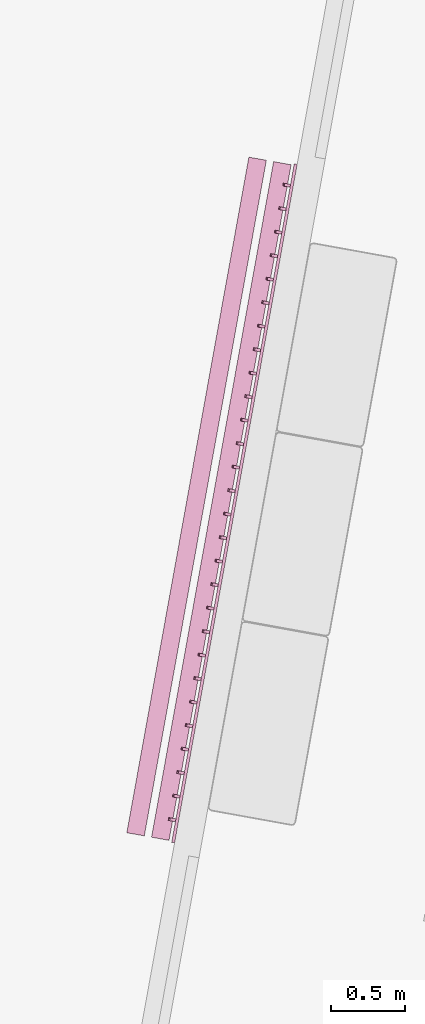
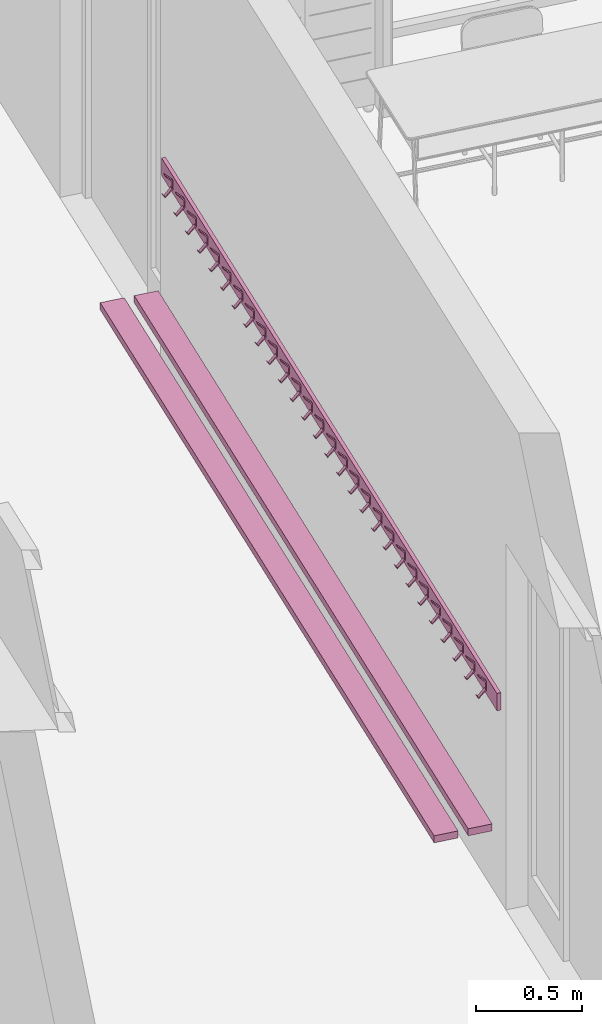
# One storey, part 10 of 79: 2 furnishings.
"""IFC2X3 building model written with IfcOpenShell, lengths in metres."""

from ifc_helpers import new_model, entity, si_unit, converted_unit, derived_unit, money_unit, direction, frame, origin_with_axes, place, context, subcontext, project, spatial, faceted_brep, source, transform, mapped, material, type_object, element, save


model = new_model("IFC2X3")

# Units and contexts
model_context = context("Model", 3, precision=1e-05, world=origin_with_axes(), true_north=direction((0.0, 1.0)))
body_context = subcontext(model_context, "Body", "Model", "MODEL_VIEW")
ifc_project = project(units=[si_unit("LENGTHUNIT", "METRE"), si_unit("AREAUNIT", "SQUARE_METRE"), si_unit("VOLUMEUNIT", "CUBIC_METRE"), converted_unit("PLANEANGLEUNIT", "DEGREE", entity("IfcPlaneAngleMeasure", 0.0174532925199), si_unit("PLANEANGLEUNIT", "RADIAN"), dimensions=[0, 0, 0, 0, 0, 0, 0]), money_unit("CHF"), converted_unit("TIMEUNIT", "Year", entity("IfcTimeMeasure", 31556926.0), si_unit("TIMEUNIT", "SECOND"), dimensions=[0, 0, 1, 0, 0, 0, 0]), si_unit("MASSUNIT", "GRAM", prefix="KILO"), si_unit("THERMODYNAMICTEMPERATUREUNIT", "DEGREE_CELSIUS"), si_unit("LUMINOUSINTENSITYUNIT", "LUMEN"), si_unit("ENERGYUNIT", "JOULE", prefix="MEGA"), derived_unit("THERMALCONDUCTANCEUNIT", [(si_unit("POWERUNIT", "WATT"), 1), (si_unit("LENGTHUNIT", "METRE"), -1), (si_unit("THERMODYNAMICTEMPERATUREUNIT", "KELVIN"), -1)]), derived_unit("SPECIFICHEATCAPACITYUNIT", [(si_unit("ENERGYUNIT", "JOULE"), 1), (si_unit("MASSUNIT", "GRAM", prefix="KILO"), -1), (si_unit("THERMODYNAMICTEMPERATUREUNIT", "KELVIN"), -1)]), derived_unit("MASSDENSITYUNIT", [(si_unit("MASSUNIT", "GRAM", prefix="KILO"), 1), (si_unit("VOLUMEUNIT", "CUBIC_METRE"), -1)])], contexts=[model_context])

# Site, building, storey
site_placement = place(None, frame((0.0, 0.0, 0.0), z_axis=(0.0, 0.0, 1.0), x_axis=(-0.177771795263, -0.984071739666, 0.0)))
site = spatial("IfcSite", under=ifc_project, at=site_placement, Name="Site", CompositionType="ELEMENT")
building_placement = place(site_placement, origin_with_axes())
building = spatial("IfcBuilding", under=site, at=building_placement, Name="Bâtiment", CompositionType="ELEMENT")
storey_placement = place(building_placement, origin_with_axes())
storey = spatial("IfcBuildingStorey", under=building, at=storey_placement, Name="RDC", CompositionType="ELEMENT", Elevation=0.0)

# Furnishings
ifc_material_1 = material(Name="Matériau de construction IFC")
furnishing_element_type_1 = type_object("IfcFurnishingElementType", Name="Râtelier mural 21")
shared_shape_1 = source(origin_with_axes(), body_context, "Body", "Brep", [
    faceted_brep([(-2.33000000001, 0.0, 0.0), (2.33000000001, 0.0, 0.0), (2.33000000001, -0.02, 0.0), (-2.33000000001, -0.02, 0.0), (-2.33000000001, 0.0, 0.1), (2.33000000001, 0.0, 0.1), (2.33000000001, -0.02, 0.1), (-2.33000000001, -0.02, 0.1)], [[[0, 1, 2, 3]], [[1, 0, 4, 5]], [[2, 1, 5, 6]], [[3, 2, 6, 7]], [[0, 3, 7, 4]], [[5, 4, 7, 6]]]),
    faceted_brep([(2.16862068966, -0.06, -0.015), (2.16862068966, -0.02, 0.025), (2.18862068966, -0.02, 0.025), (2.18862068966, -0.06, -0.015), (2.16862068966, -0.07, 0.0), (2.16862068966, -0.0675, 0.0), (2.16862068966, -0.06, -0.01), (2.16862068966, -0.025, 0.03), (2.16862068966, -0.025, 0.07), (2.16862068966, -0.06, 0.11), (2.16862068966, -0.06, 0.115), (2.16862068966, -0.02, 0.075), (2.18862068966, -0.02, 0.075), (2.18862068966, -0.06, 0.115), (2.18862068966, -0.06, 0.11), (2.18862068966, -0.025, 0.07), (2.18862068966, -0.025, 0.03), (2.18862068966, -0.06, -0.01), (2.18862068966, -0.0675, 0.0), (2.18862068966, -0.07, 0.0)], [[[0, 1, 2, 3]], [[0, 4, 5, 6, 7, 8, 9, 10, 11, 1]], [[1, 11, 12, 2]], [[3, 2, 12, 13, 14, 15, 16, 17, 18, 19]], [[4, 0, 3, 19]], [[5, 4, 19, 18]], [[6, 5, 18, 17]], [[7, 6, 17, 16]], [[8, 7, 16, 15]], [[9, 8, 15, 14]], [[10, 9, 14, 13]], [[11, 10, 13, 12]]]),
    faceted_brep([(2.00724137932, -0.06, -0.015), (2.00724137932, -0.02, 0.025), (2.02724137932, -0.02, 0.025), (2.02724137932, -0.06, -0.015), (2.00724137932, -0.07, 0.0), (2.00724137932, -0.0675, 0.0), (2.00724137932, -0.06, -0.01), (2.00724137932, -0.025, 0.03), (2.00724137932, -0.025, 0.07), (2.00724137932, -0.06, 0.11), (2.00724137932, -0.06, 0.115), (2.00724137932, -0.02, 0.075), (2.02724137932, -0.02, 0.075), (2.02724137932, -0.06, 0.115), (2.02724137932, -0.06, 0.11), (2.02724137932, -0.025, 0.07), (2.02724137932, -0.025, 0.03), (2.02724137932, -0.06, -0.01), (2.02724137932, -0.0675, 0.0), (2.02724137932, -0.07, 0.0)], [[[0, 1, 2, 3]], [[0, 4, 5, 6, 7, 8, 9, 10, 11, 1]], [[1, 11, 12, 2]], [[3, 2, 12, 13, 14, 15, 16, 17, 18, 19]], [[4, 0, 3, 19]], [[5, 4, 19, 18]], [[6, 5, 18, 17]], [[7, 6, 17, 16]], [[8, 7, 16, 15]], [[9, 8, 15, 14]], [[10, 9, 14, 13]], [[11, 10, 13, 12]]]),
    faceted_brep([(1.84586206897, -0.06, -0.015), (1.84586206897, -0.02, 0.025), (1.86586206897, -0.02, 0.025), (1.86586206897, -0.06, -0.015), (1.84586206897, -0.07, 0.0), (1.84586206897, -0.0675, 0.0), (1.84586206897, -0.06, -0.01), (1.84586206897, -0.025, 0.03), (1.84586206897, -0.025, 0.07), (1.84586206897, -0.06, 0.11), (1.84586206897, -0.06, 0.115), (1.84586206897, -0.02, 0.075), (1.86586206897, -0.02, 0.075), (1.86586206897, -0.06, 0.115), (1.86586206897, -0.06, 0.11), (1.86586206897, -0.025, 0.07), (1.86586206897, -0.025, 0.03), (1.86586206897, -0.06, -0.01), (1.86586206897, -0.0675, 0.0), (1.86586206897, -0.07, 0.0)], [[[0, 1, 2, 3]], [[0, 4, 5, 6, 7, 8, 9, 10, 11, 1]], [[1, 11, 12, 2]], [[3, 2, 12, 13, 14, 15, 16, 17, 18, 19]], [[4, 0, 3, 19]], [[5, 4, 19, 18]], [[6, 5, 18, 17]], [[7, 6, 17, 16]], [[8, 7, 16, 15]], [[9, 8, 15, 14]], [[10, 9, 14, 13]], [[11, 10, 13, 12]]]),
    faceted_brep([(1.68448275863, -0.06, -0.015), (1.68448275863, -0.02, 0.025), (1.70448275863, -0.02, 0.025), (1.70448275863, -0.06, -0.015), (1.68448275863, -0.07, 0.0), (1.68448275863, -0.0675, 0.0), (1.68448275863, -0.06, -0.01), (1.68448275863, -0.025, 0.03), (1.68448275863, -0.025, 0.07), (1.68448275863, -0.06, 0.11), (1.68448275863, -0.06, 0.115), (1.68448275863, -0.02, 0.075), (1.70448275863, -0.02, 0.075), (1.70448275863, -0.06, 0.115), (1.70448275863, -0.06, 0.11), (1.70448275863, -0.025, 0.07), (1.70448275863, -0.025, 0.03), (1.70448275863, -0.06, -0.01), (1.70448275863, -0.0675, 0.0), (1.70448275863, -0.07, 0.0)], [[[0, 1, 2, 3]], [[0, 4, 5, 6, 7, 8, 9, 10, 11, 1]], [[1, 11, 12, 2]], [[3, 2, 12, 13, 14, 15, 16, 17, 18, 19]], [[4, 0, 3, 19]], [[5, 4, 19, 18]], [[6, 5, 18, 17]], [[7, 6, 17, 16]], [[8, 7, 16, 15]], [[9, 8, 15, 14]], [[10, 9, 14, 13]], [[11, 10, 13, 12]]]),
    faceted_brep([(1.52310344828, -0.06, -0.015), (1.52310344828, -0.02, 0.025), (1.54310344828, -0.02, 0.025), (1.54310344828, -0.06, -0.015), (1.52310344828, -0.07, 0.0), (1.52310344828, -0.0675, 0.0), (1.52310344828, -0.06, -0.01), (1.52310344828, -0.025, 0.03), (1.52310344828, -0.025, 0.07), (1.52310344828, -0.06, 0.11), (1.52310344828, -0.06, 0.115), (1.52310344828, -0.02, 0.075), (1.54310344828, -0.02, 0.075), (1.54310344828, -0.06, 0.115), (1.54310344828, -0.06, 0.11), (1.54310344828, -0.025, 0.07), (1.54310344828, -0.025, 0.03), (1.54310344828, -0.06, -0.01), (1.54310344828, -0.0675, 0.0), (1.54310344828, -0.07, 0.0)], [[[0, 1, 2, 3]], [[0, 4, 5, 6, 7, 8, 9, 10, 11, 1]], [[1, 11, 12, 2]], [[3, 2, 12, 13, 14, 15, 16, 17, 18, 19]], [[4, 0, 3, 19]], [[5, 4, 19, 18]], [[6, 5, 18, 17]], [[7, 6, 17, 16]], [[8, 7, 16, 15]], [[9, 8, 15, 14]], [[10, 9, 14, 13]], [[11, 10, 13, 12]]]),
    faceted_brep([(1.36172413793, -0.06, -0.015), (1.36172413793, -0.02, 0.025), (1.38172413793, -0.02, 0.025), (1.38172413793, -0.06, -0.015), (1.36172413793, -0.07, 0.0), (1.36172413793, -0.0675, 0.0), (1.36172413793, -0.06, -0.01), (1.36172413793, -0.025, 0.03), (1.36172413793, -0.025, 0.07), (1.36172413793, -0.06, 0.11), (1.36172413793, -0.06, 0.115), (1.36172413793, -0.02, 0.075), (1.38172413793, -0.02, 0.075), (1.38172413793, -0.06, 0.115), (1.38172413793, -0.06, 0.11), (1.38172413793, -0.025, 0.07), (1.38172413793, -0.025, 0.03), (1.38172413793, -0.06, -0.01), (1.38172413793, -0.0675, 0.0), (1.38172413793, -0.07, 0.0)], [[[0, 1, 2, 3]], [[0, 4, 5, 6, 7, 8, 9, 10, 11, 1]], [[1, 11, 12, 2]], [[3, 2, 12, 13, 14, 15, 16, 17, 18, 19]], [[4, 0, 3, 19]], [[5, 4, 19, 18]], [[6, 5, 18, 17]], [[7, 6, 17, 16]], [[8, 7, 16, 15]], [[9, 8, 15, 14]], [[10, 9, 14, 13]], [[11, 10, 13, 12]]]),
    faceted_brep([(1.20034482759, -0.06, -0.015), (1.20034482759, -0.02, 0.025), (1.22034482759, -0.02, 0.025), (1.22034482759, -0.06, -0.015), (1.20034482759, -0.07, 0.0), (1.20034482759, -0.0675, 0.0), (1.20034482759, -0.06, -0.01), (1.20034482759, -0.025, 0.03), (1.20034482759, -0.025, 0.07), (1.20034482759, -0.06, 0.11), (1.20034482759, -0.06, 0.115), (1.20034482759, -0.02, 0.075), (1.22034482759, -0.02, 0.075), (1.22034482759, -0.06, 0.115), (1.22034482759, -0.06, 0.11), (1.22034482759, -0.025, 0.07), (1.22034482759, -0.025, 0.03), (1.22034482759, -0.06, -0.01), (1.22034482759, -0.0675, 0.0), (1.22034482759, -0.07, 0.0)], [[[0, 1, 2, 3]], [[0, 4, 5, 6, 7, 8, 9, 10, 11, 1]], [[1, 11, 12, 2]], [[3, 2, 12, 13, 14, 15, 16, 17, 18, 19]], [[4, 0, 3, 19]], [[5, 4, 19, 18]], [[6, 5, 18, 17]], [[7, 6, 17, 16]], [[8, 7, 16, 15]], [[9, 8, 15, 14]], [[10, 9, 14, 13]], [[11, 10, 13, 12]]]),
    faceted_brep([(1.03896551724, -0.06, -0.015), (1.03896551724, -0.02, 0.025), (1.05896551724, -0.02, 0.025), (1.05896551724, -0.06, -0.015), (1.03896551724, -0.07, 0.0), (1.03896551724, -0.0675, 0.0), (1.03896551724, -0.06, -0.01), (1.03896551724, -0.025, 0.03), (1.03896551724, -0.025, 0.07), (1.03896551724, -0.06, 0.11), (1.03896551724, -0.06, 0.115), (1.03896551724, -0.02, 0.075), (1.05896551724, -0.02, 0.075), (1.05896551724, -0.06, 0.115), (1.05896551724, -0.06, 0.11), (1.05896551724, -0.025, 0.07), (1.05896551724, -0.025, 0.03), (1.05896551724, -0.06, -0.01), (1.05896551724, -0.0675, 0.0), (1.05896551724, -0.07, 0.0)], [[[0, 1, 2, 3]], [[0, 4, 5, 6, 7, 8, 9, 10, 11, 1]], [[1, 11, 12, 2]], [[3, 2, 12, 13, 14, 15, 16, 17, 18, 19]], [[4, 0, 3, 19]], [[5, 4, 19, 18]], [[6, 5, 18, 17]], [[7, 6, 17, 16]], [[8, 7, 16, 15]], [[9, 8, 15, 14]], [[10, 9, 14, 13]], [[11, 10, 13, 12]]]),
    faceted_brep([(0.877586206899, -0.06, -0.015), (0.877586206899, -0.02, 0.025), (0.897586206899, -0.02, 0.025), (0.897586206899, -0.06, -0.015), (0.877586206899, -0.07, 0.0), (0.877586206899, -0.0675, 0.0), (0.877586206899, -0.06, -0.01), (0.877586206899, -0.025, 0.03), (0.877586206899, -0.025, 0.07), (0.877586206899, -0.06, 0.11), (0.877586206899, -0.06, 0.115), (0.877586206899, -0.02, 0.075), (0.897586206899, -0.02, 0.075), (0.897586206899, -0.06, 0.115), (0.897586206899, -0.06, 0.11), (0.897586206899, -0.025, 0.07), (0.897586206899, -0.025, 0.03), (0.897586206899, -0.06, -0.01), (0.897586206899, -0.0675, 0.0), (0.897586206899, -0.07, 0.0)], [[[0, 1, 2, 3]], [[0, 4, 5, 6, 7, 8, 9, 10, 11, 1]], [[1, 11, 12, 2]], [[3, 2, 12, 13, 14, 15, 16, 17, 18, 19]], [[4, 0, 3, 19]], [[5, 4, 19, 18]], [[6, 5, 18, 17]], [[7, 6, 17, 16]], [[8, 7, 16, 15]], [[9, 8, 15, 14]], [[10, 9, 14, 13]], [[11, 10, 13, 12]]]),
    faceted_brep([(0.716206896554, -0.06, -0.015), (0.716206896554, -0.02, 0.025), (0.736206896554, -0.02, 0.025), (0.736206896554, -0.06, -0.015), (0.716206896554, -0.07, 0.0), (0.716206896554, -0.0675, 0.0), (0.716206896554, -0.06, -0.01), (0.716206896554, -0.025, 0.03), (0.716206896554, -0.025, 0.07), (0.716206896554, -0.06, 0.11), (0.716206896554, -0.06, 0.115), (0.716206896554, -0.02, 0.075), (0.736206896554, -0.02, 0.075), (0.736206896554, -0.06, 0.115), (0.736206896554, -0.06, 0.11), (0.736206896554, -0.025, 0.07), (0.736206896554, -0.025, 0.03), (0.736206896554, -0.06, -0.01), (0.736206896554, -0.0675, 0.0), (0.736206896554, -0.07, 0.0)], [[[0, 1, 2, 3]], [[0, 4, 5, 6, 7, 8, 9, 10, 11, 1]], [[1, 11, 12, 2]], [[3, 2, 12, 13, 14, 15, 16, 17, 18, 19]], [[4, 0, 3, 19]], [[5, 4, 19, 18]], [[6, 5, 18, 17]], [[7, 6, 17, 16]], [[8, 7, 16, 15]], [[9, 8, 15, 14]], [[10, 9, 14, 13]], [[11, 10, 13, 12]]]),
    faceted_brep([(0.554827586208, -0.06, -0.015), (0.554827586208, -0.02, 0.025), (0.574827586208, -0.02, 0.025), (0.574827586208, -0.06, -0.015), (0.554827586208, -0.07, 0.0), (0.554827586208, -0.0675, 0.0), (0.554827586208, -0.06, -0.01), (0.554827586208, -0.025, 0.03), (0.554827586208, -0.025, 0.07), (0.554827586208, -0.06, 0.11), (0.554827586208, -0.06, 0.115), (0.554827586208, -0.02, 0.075), (0.574827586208, -0.02, 0.075), (0.574827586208, -0.06, 0.115), (0.574827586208, -0.06, 0.11), (0.574827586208, -0.025, 0.07), (0.574827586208, -0.025, 0.03), (0.574827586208, -0.06, -0.01), (0.574827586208, -0.0675, 0.0), (0.574827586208, -0.07, 0.0)], [[[0, 1, 2, 3]], [[0, 4, 5, 6, 7, 8, 9, 10, 11, 1]], [[1, 11, 12, 2]], [[3, 2, 12, 13, 14, 15, 16, 17, 18, 19]], [[4, 0, 3, 19]], [[5, 4, 19, 18]], [[6, 5, 18, 17]], [[7, 6, 17, 16]], [[8, 7, 16, 15]], [[9, 8, 15, 14]], [[10, 9, 14, 13]], [[11, 10, 13, 12]]]),
    faceted_brep([(0.393448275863, -0.06, -0.015), (0.393448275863, -0.02, 0.025), (0.413448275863, -0.02, 0.025), (0.413448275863, -0.06, -0.015), (0.393448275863, -0.07, 0.0), (0.393448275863, -0.0675, 0.0), (0.393448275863, -0.06, -0.01), (0.393448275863, -0.025, 0.03), (0.393448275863, -0.025, 0.07), (0.393448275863, -0.06, 0.11), (0.393448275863, -0.06, 0.115), (0.393448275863, -0.02, 0.075), (0.413448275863, -0.02, 0.075), (0.413448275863, -0.06, 0.115), (0.413448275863, -0.06, 0.11), (0.413448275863, -0.025, 0.07), (0.413448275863, -0.025, 0.03), (0.413448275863, -0.06, -0.01), (0.413448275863, -0.0675, 0.0), (0.413448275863, -0.07, 0.0)], [[[0, 1, 2, 3]], [[0, 4, 5, 6, 7, 8, 9, 10, 11, 1]], [[1, 11, 12, 2]], [[3, 2, 12, 13, 14, 15, 16, 17, 18, 19]], [[4, 0, 3, 19]], [[5, 4, 19, 18]], [[6, 5, 18, 17]], [[7, 6, 17, 16]], [[8, 7, 16, 15]], [[9, 8, 15, 14]], [[10, 9, 14, 13]], [[11, 10, 13, 12]]]),
    faceted_brep([(0.232068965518, -0.06, -0.015), (0.232068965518, -0.02, 0.025), (0.252068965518, -0.02, 0.025), (0.252068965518, -0.06, -0.015), (0.232068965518, -0.07, 0.0), (0.232068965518, -0.0675, 0.0), (0.232068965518, -0.06, -0.01), (0.232068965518, -0.025, 0.03), (0.232068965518, -0.025, 0.07), (0.232068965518, -0.06, 0.11), (0.232068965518, -0.06, 0.115), (0.232068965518, -0.02, 0.075), (0.252068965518, -0.02, 0.075), (0.252068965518, -0.06, 0.115), (0.252068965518, -0.06, 0.11), (0.252068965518, -0.025, 0.07), (0.252068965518, -0.025, 0.03), (0.252068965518, -0.06, -0.01), (0.252068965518, -0.0675, 0.0), (0.252068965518, -0.07, 0.0)], [[[0, 1, 2, 3]], [[0, 4, 5, 6, 7, 8, 9, 10, 11, 1]], [[1, 11, 12, 2]], [[3, 2, 12, 13, 14, 15, 16, 17, 18, 19]], [[4, 0, 3, 19]], [[5, 4, 19, 18]], [[6, 5, 18, 17]], [[7, 6, 17, 16]], [[8, 7, 16, 15]], [[9, 8, 15, 14]], [[10, 9, 14, 13]], [[11, 10, 13, 12]]]),
    faceted_brep([(0.0706896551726, -0.06, -0.015), (0.0706896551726, -0.02, 0.025), (0.0906896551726, -0.02, 0.025), (0.0906896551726, -0.06, -0.015), (0.0706896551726, -0.07, 0.0), (0.0706896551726, -0.0675, 0.0), (0.0706896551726, -0.06, -0.01), (0.0706896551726, -0.025, 0.03), (0.0706896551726, -0.025, 0.07), (0.0706896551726, -0.06, 0.11), (0.0706896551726, -0.06, 0.115), (0.0706896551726, -0.02, 0.075), (0.0906896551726, -0.02, 0.075), (0.0906896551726, -0.06, 0.115), (0.0906896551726, -0.06, 0.11), (0.0906896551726, -0.025, 0.07), (0.0906896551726, -0.025, 0.03), (0.0906896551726, -0.06, -0.01), (0.0906896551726, -0.0675, 0.0), (0.0906896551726, -0.07, 0.0)], [[[0, 1, 2, 3]], [[0, 4, 5, 6, 7, 8, 9, 10, 11, 1]], [[1, 11, 12, 2]], [[3, 2, 12, 13, 14, 15, 16, 17, 18, 19]], [[4, 0, 3, 19]], [[5, 4, 19, 18]], [[6, 5, 18, 17]], [[7, 6, 17, 16]], [[8, 7, 16, 15]], [[9, 8, 15, 14]], [[10, 9, 14, 13]], [[11, 10, 13, 12]]]),
    faceted_brep([(-0.0906896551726, -0.06, -0.015), (-0.0906896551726, -0.02, 0.025), (-0.0706896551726, -0.02, 0.025), (-0.0706896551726, -0.06, -0.015), (-0.0906896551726, -0.07, 0.0), (-0.0906896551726, -0.0675, 0.0), (-0.0906896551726, -0.06, -0.01), (-0.0906896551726, -0.025, 0.03), (-0.0906896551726, -0.025, 0.07), (-0.0906896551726, -0.06, 0.11), (-0.0906896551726, -0.06, 0.115), (-0.0906896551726, -0.02, 0.075), (-0.0706896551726, -0.02, 0.075), (-0.0706896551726, -0.06, 0.115), (-0.0706896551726, -0.06, 0.11), (-0.0706896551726, -0.025, 0.07), (-0.0706896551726, -0.025, 0.03), (-0.0706896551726, -0.06, -0.01), (-0.0706896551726, -0.0675, 0.0), (-0.0706896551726, -0.07, 0.0)], [[[0, 1, 2, 3]], [[0, 4, 5, 6, 7, 8, 9, 10, 11, 1]], [[1, 11, 12, 2]], [[3, 2, 12, 13, 14, 15, 16, 17, 18, 19]], [[4, 0, 3, 19]], [[5, 4, 19, 18]], [[6, 5, 18, 17]], [[7, 6, 17, 16]], [[8, 7, 16, 15]], [[9, 8, 15, 14]], [[10, 9, 14, 13]], [[11, 10, 13, 12]]]),
    faceted_brep([(-0.252068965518, -0.06, -0.015), (-0.252068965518, -0.02, 0.025), (-0.232068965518, -0.02, 0.025), (-0.232068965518, -0.06, -0.015), (-0.252068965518, -0.07, 0.0), (-0.252068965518, -0.0675, 0.0), (-0.252068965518, -0.06, -0.01), (-0.252068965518, -0.025, 0.03), (-0.252068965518, -0.025, 0.07), (-0.252068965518, -0.06, 0.11), (-0.252068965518, -0.06, 0.115), (-0.252068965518, -0.02, 0.075), (-0.232068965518, -0.02, 0.075), (-0.232068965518, -0.06, 0.115), (-0.232068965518, -0.06, 0.11), (-0.232068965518, -0.025, 0.07), (-0.232068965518, -0.025, 0.03), (-0.232068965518, -0.06, -0.01), (-0.232068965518, -0.0675, 0.0), (-0.232068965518, -0.07, 0.0)], [[[0, 1, 2, 3]], [[0, 4, 5, 6, 7, 8, 9, 10, 11, 1]], [[1, 11, 12, 2]], [[3, 2, 12, 13, 14, 15, 16, 17, 18, 19]], [[4, 0, 3, 19]], [[5, 4, 19, 18]], [[6, 5, 18, 17]], [[7, 6, 17, 16]], [[8, 7, 16, 15]], [[9, 8, 15, 14]], [[10, 9, 14, 13]], [[11, 10, 13, 12]]]),
    faceted_brep([(-0.413448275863, -0.06, -0.015), (-0.413448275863, -0.02, 0.025), (-0.393448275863, -0.02, 0.025), (-0.393448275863, -0.06, -0.015), (-0.413448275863, -0.07, 0.0), (-0.413448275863, -0.0675, 0.0), (-0.413448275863, -0.06, -0.01), (-0.413448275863, -0.025, 0.03), (-0.413448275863, -0.025, 0.07), (-0.413448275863, -0.06, 0.11), (-0.413448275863, -0.06, 0.115), (-0.413448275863, -0.02, 0.075), (-0.393448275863, -0.02, 0.075), (-0.393448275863, -0.06, 0.115), (-0.393448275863, -0.06, 0.11), (-0.393448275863, -0.025, 0.07), (-0.393448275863, -0.025, 0.03), (-0.393448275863, -0.06, -0.01), (-0.393448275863, -0.0675, 0.0), (-0.393448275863, -0.07, 0.0)], [[[0, 1, 2, 3]], [[0, 4, 5, 6, 7, 8, 9, 10, 11, 1]], [[1, 11, 12, 2]], [[3, 2, 12, 13, 14, 15, 16, 17, 18, 19]], [[4, 0, 3, 19]], [[5, 4, 19, 18]], [[6, 5, 18, 17]], [[7, 6, 17, 16]], [[8, 7, 16, 15]], [[9, 8, 15, 14]], [[10, 9, 14, 13]], [[11, 10, 13, 12]]]),
    faceted_brep([(-0.574827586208, -0.06, -0.015), (-0.574827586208, -0.02, 0.025), (-0.554827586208, -0.02, 0.025), (-0.554827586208, -0.06, -0.015), (-0.574827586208, -0.07, 0.0), (-0.574827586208, -0.0675, 0.0), (-0.574827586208, -0.06, -0.01), (-0.574827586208, -0.025, 0.03), (-0.574827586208, -0.025, 0.07), (-0.574827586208, -0.06, 0.11), (-0.574827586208, -0.06, 0.115), (-0.574827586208, -0.02, 0.075), (-0.554827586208, -0.02, 0.075), (-0.554827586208, -0.06, 0.115), (-0.554827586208, -0.06, 0.11), (-0.554827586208, -0.025, 0.07), (-0.554827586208, -0.025, 0.03), (-0.554827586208, -0.06, -0.01), (-0.554827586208, -0.0675, 0.0), (-0.554827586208, -0.07, 0.0)], [[[0, 1, 2, 3]], [[0, 4, 5, 6, 7, 8, 9, 10, 11, 1]], [[1, 11, 12, 2]], [[3, 2, 12, 13, 14, 15, 16, 17, 18, 19]], [[4, 0, 3, 19]], [[5, 4, 19, 18]], [[6, 5, 18, 17]], [[7, 6, 17, 16]], [[8, 7, 16, 15]], [[9, 8, 15, 14]], [[10, 9, 14, 13]], [[11, 10, 13, 12]]]),
    faceted_brep([(-0.736206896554, -0.06, -0.015), (-0.736206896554, -0.02, 0.025), (-0.716206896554, -0.02, 0.025), (-0.716206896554, -0.06, -0.015), (-0.736206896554, -0.07, 0.0), (-0.736206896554, -0.0675, 0.0), (-0.736206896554, -0.06, -0.01), (-0.736206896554, -0.025, 0.03), (-0.736206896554, -0.025, 0.07), (-0.736206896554, -0.06, 0.11), (-0.736206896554, -0.06, 0.115), (-0.736206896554, -0.02, 0.075), (-0.716206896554, -0.02, 0.075), (-0.716206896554, -0.06, 0.115), (-0.716206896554, -0.06, 0.11), (-0.716206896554, -0.025, 0.07), (-0.716206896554, -0.025, 0.03), (-0.716206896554, -0.06, -0.01), (-0.716206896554, -0.0675, 0.0), (-0.716206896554, -0.07, 0.0)], [[[0, 1, 2, 3]], [[0, 4, 5, 6, 7, 8, 9, 10, 11, 1]], [[1, 11, 12, 2]], [[3, 2, 12, 13, 14, 15, 16, 17, 18, 19]], [[4, 0, 3, 19]], [[5, 4, 19, 18]], [[6, 5, 18, 17]], [[7, 6, 17, 16]], [[8, 7, 16, 15]], [[9, 8, 15, 14]], [[10, 9, 14, 13]], [[11, 10, 13, 12]]]),
    faceted_brep([(-0.897586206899, -0.06, -0.015), (-0.897586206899, -0.02, 0.025), (-0.877586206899, -0.02, 0.025), (-0.877586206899, -0.06, -0.015), (-0.897586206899, -0.07, 0.0), (-0.897586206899, -0.0675, 0.0), (-0.897586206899, -0.06, -0.01), (-0.897586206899, -0.025, 0.03), (-0.897586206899, -0.025, 0.07), (-0.897586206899, -0.06, 0.11), (-0.897586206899, -0.06, 0.115), (-0.897586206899, -0.02, 0.075), (-0.877586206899, -0.02, 0.075), (-0.877586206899, -0.06, 0.115), (-0.877586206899, -0.06, 0.11), (-0.877586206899, -0.025, 0.07), (-0.877586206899, -0.025, 0.03), (-0.877586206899, -0.06, -0.01), (-0.877586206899, -0.0675, 0.0), (-0.877586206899, -0.07, 0.0)], [[[0, 1, 2, 3]], [[0, 4, 5, 6, 7, 8, 9, 10, 11, 1]], [[1, 11, 12, 2]], [[3, 2, 12, 13, 14, 15, 16, 17, 18, 19]], [[4, 0, 3, 19]], [[5, 4, 19, 18]], [[6, 5, 18, 17]], [[7, 6, 17, 16]], [[8, 7, 16, 15]], [[9, 8, 15, 14]], [[10, 9, 14, 13]], [[11, 10, 13, 12]]]),
    faceted_brep([(-1.05896551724, -0.06, -0.015), (-1.05896551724, -0.02, 0.025), (-1.03896551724, -0.02, 0.025), (-1.03896551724, -0.06, -0.015), (-1.05896551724, -0.07, 0.0), (-1.05896551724, -0.0675, 0.0), (-1.05896551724, -0.06, -0.01), (-1.05896551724, -0.025, 0.03), (-1.05896551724, -0.025, 0.07), (-1.05896551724, -0.06, 0.11), (-1.05896551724, -0.06, 0.115), (-1.05896551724, -0.02, 0.075), (-1.03896551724, -0.02, 0.075), (-1.03896551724, -0.06, 0.115), (-1.03896551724, -0.06, 0.11), (-1.03896551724, -0.025, 0.07), (-1.03896551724, -0.025, 0.03), (-1.03896551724, -0.06, -0.01), (-1.03896551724, -0.0675, 0.0), (-1.03896551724, -0.07, 0.0)], [[[0, 1, 2, 3]], [[0, 4, 5, 6, 7, 8, 9, 10, 11, 1]], [[1, 11, 12, 2]], [[3, 2, 12, 13, 14, 15, 16, 17, 18, 19]], [[4, 0, 3, 19]], [[5, 4, 19, 18]], [[6, 5, 18, 17]], [[7, 6, 17, 16]], [[8, 7, 16, 15]], [[9, 8, 15, 14]], [[10, 9, 14, 13]], [[11, 10, 13, 12]]]),
    faceted_brep([(-1.22034482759, -0.06, -0.015), (-1.22034482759, -0.02, 0.025), (-1.20034482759, -0.02, 0.025), (-1.20034482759, -0.06, -0.015), (-1.22034482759, -0.07, 0.0), (-1.22034482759, -0.0675, 0.0), (-1.22034482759, -0.06, -0.01), (-1.22034482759, -0.025, 0.03), (-1.22034482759, -0.025, 0.07), (-1.22034482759, -0.06, 0.11), (-1.22034482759, -0.06, 0.115), (-1.22034482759, -0.02, 0.075), (-1.20034482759, -0.02, 0.075), (-1.20034482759, -0.06, 0.115), (-1.20034482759, -0.06, 0.11), (-1.20034482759, -0.025, 0.07), (-1.20034482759, -0.025, 0.03), (-1.20034482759, -0.06, -0.01), (-1.20034482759, -0.0675, 0.0), (-1.20034482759, -0.07, 0.0)], [[[0, 1, 2, 3]], [[0, 4, 5, 6, 7, 8, 9, 10, 11, 1]], [[1, 11, 12, 2]], [[3, 2, 12, 13, 14, 15, 16, 17, 18, 19]], [[4, 0, 3, 19]], [[5, 4, 19, 18]], [[6, 5, 18, 17]], [[7, 6, 17, 16]], [[8, 7, 16, 15]], [[9, 8, 15, 14]], [[10, 9, 14, 13]], [[11, 10, 13, 12]]]),
    faceted_brep([(-1.38172413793, -0.06, -0.015), (-1.38172413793, -0.02, 0.025), (-1.36172413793, -0.02, 0.025), (-1.36172413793, -0.06, -0.015), (-1.38172413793, -0.07, 0.0), (-1.38172413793, -0.0675, 0.0), (-1.38172413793, -0.06, -0.01), (-1.38172413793, -0.025, 0.03), (-1.38172413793, -0.025, 0.07), (-1.38172413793, -0.06, 0.11), (-1.38172413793, -0.06, 0.115), (-1.38172413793, -0.02, 0.075), (-1.36172413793, -0.02, 0.075), (-1.36172413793, -0.06, 0.115), (-1.36172413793, -0.06, 0.11), (-1.36172413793, -0.025, 0.07), (-1.36172413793, -0.025, 0.03), (-1.36172413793, -0.06, -0.01), (-1.36172413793, -0.0675, 0.0), (-1.36172413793, -0.07, 0.0)], [[[0, 1, 2, 3]], [[0, 4, 5, 6, 7, 8, 9, 10, 11, 1]], [[1, 11, 12, 2]], [[3, 2, 12, 13, 14, 15, 16, 17, 18, 19]], [[4, 0, 3, 19]], [[5, 4, 19, 18]], [[6, 5, 18, 17]], [[7, 6, 17, 16]], [[8, 7, 16, 15]], [[9, 8, 15, 14]], [[10, 9, 14, 13]], [[11, 10, 13, 12]]]),
    faceted_brep([(-1.54310344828, -0.06, -0.015), (-1.54310344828, -0.02, 0.025), (-1.52310344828, -0.02, 0.025), (-1.52310344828, -0.06, -0.015), (-1.54310344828, -0.07, 0.0), (-1.54310344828, -0.0675, 0.0), (-1.54310344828, -0.06, -0.01), (-1.54310344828, -0.025, 0.03), (-1.54310344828, -0.025, 0.07), (-1.54310344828, -0.06, 0.11), (-1.54310344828, -0.06, 0.115), (-1.54310344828, -0.02, 0.075), (-1.52310344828, -0.02, 0.075), (-1.52310344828, -0.06, 0.115), (-1.52310344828, -0.06, 0.11), (-1.52310344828, -0.025, 0.07), (-1.52310344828, -0.025, 0.03), (-1.52310344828, -0.06, -0.01), (-1.52310344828, -0.0675, 0.0), (-1.52310344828, -0.07, 0.0)], [[[0, 1, 2, 3]], [[0, 4, 5, 6, 7, 8, 9, 10, 11, 1]], [[1, 11, 12, 2]], [[3, 2, 12, 13, 14, 15, 16, 17, 18, 19]], [[4, 0, 3, 19]], [[5, 4, 19, 18]], [[6, 5, 18, 17]], [[7, 6, 17, 16]], [[8, 7, 16, 15]], [[9, 8, 15, 14]], [[10, 9, 14, 13]], [[11, 10, 13, 12]]]),
    faceted_brep([(-1.70448275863, -0.06, -0.015), (-1.70448275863, -0.02, 0.025), (-1.68448275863, -0.02, 0.025), (-1.68448275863, -0.06, -0.015), (-1.70448275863, -0.07, 0.0), (-1.70448275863, -0.0675, 0.0), (-1.70448275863, -0.06, -0.01), (-1.70448275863, -0.025, 0.03), (-1.70448275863, -0.025, 0.07), (-1.70448275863, -0.06, 0.11), (-1.70448275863, -0.06, 0.115), (-1.70448275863, -0.02, 0.075), (-1.68448275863, -0.02, 0.075), (-1.68448275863, -0.06, 0.115), (-1.68448275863, -0.06, 0.11), (-1.68448275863, -0.025, 0.07), (-1.68448275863, -0.025, 0.03), (-1.68448275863, -0.06, -0.01), (-1.68448275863, -0.0675, 0.0), (-1.68448275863, -0.07, 0.0)], [[[0, 1, 2, 3]], [[0, 4, 5, 6, 7, 8, 9, 10, 11, 1]], [[1, 11, 12, 2]], [[3, 2, 12, 13, 14, 15, 16, 17, 18, 19]], [[4, 0, 3, 19]], [[5, 4, 19, 18]], [[6, 5, 18, 17]], [[7, 6, 17, 16]], [[8, 7, 16, 15]], [[9, 8, 15, 14]], [[10, 9, 14, 13]], [[11, 10, 13, 12]]]),
    faceted_brep([(-1.86586206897, -0.06, -0.015), (-1.86586206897, -0.02, 0.025), (-1.84586206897, -0.02, 0.025), (-1.84586206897, -0.06, -0.015), (-1.86586206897, -0.07, 0.0), (-1.86586206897, -0.0675, 0.0), (-1.86586206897, -0.06, -0.01), (-1.86586206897, -0.025, 0.03), (-1.86586206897, -0.025, 0.07), (-1.86586206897, -0.06, 0.11), (-1.86586206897, -0.06, 0.115), (-1.86586206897, -0.02, 0.075), (-1.84586206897, -0.02, 0.075), (-1.84586206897, -0.06, 0.115), (-1.84586206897, -0.06, 0.11), (-1.84586206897, -0.025, 0.07), (-1.84586206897, -0.025, 0.03), (-1.84586206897, -0.06, -0.01), (-1.84586206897, -0.0675, 0.0), (-1.84586206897, -0.07, 0.0)], [[[0, 1, 2, 3]], [[0, 4, 5, 6, 7, 8, 9, 10, 11, 1]], [[1, 11, 12, 2]], [[3, 2, 12, 13, 14, 15, 16, 17, 18, 19]], [[4, 0, 3, 19]], [[5, 4, 19, 18]], [[6, 5, 18, 17]], [[7, 6, 17, 16]], [[8, 7, 16, 15]], [[9, 8, 15, 14]], [[10, 9, 14, 13]], [[11, 10, 13, 12]]]),
    faceted_brep([(-2.02724137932, -0.06, -0.015), (-2.02724137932, -0.02, 0.025), (-2.00724137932, -0.02, 0.025), (-2.00724137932, -0.06, -0.015), (-2.02724137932, -0.07, 0.0), (-2.02724137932, -0.0675, 0.0), (-2.02724137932, -0.06, -0.01), (-2.02724137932, -0.025, 0.03), (-2.02724137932, -0.025, 0.07), (-2.02724137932, -0.06, 0.11), (-2.02724137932, -0.06, 0.115), (-2.02724137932, -0.02, 0.075), (-2.00724137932, -0.02, 0.075), (-2.00724137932, -0.06, 0.115), (-2.00724137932, -0.06, 0.11), (-2.00724137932, -0.025, 0.07), (-2.00724137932, -0.025, 0.03), (-2.00724137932, -0.06, -0.01), (-2.00724137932, -0.0675, 0.0), (-2.00724137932, -0.07, 0.0)], [[[0, 1, 2, 3]], [[0, 4, 5, 6, 7, 8, 9, 10, 11, 1]], [[1, 11, 12, 2]], [[3, 2, 12, 13, 14, 15, 16, 17, 18, 19]], [[4, 0, 3, 19]], [[5, 4, 19, 18]], [[6, 5, 18, 17]], [[7, 6, 17, 16]], [[8, 7, 16, 15]], [[9, 8, 15, 14]], [[10, 9, 14, 13]], [[11, 10, 13, 12]]]),
    faceted_brep([(-2.18862068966, -0.06, -0.015), (-2.18862068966, -0.02, 0.025), (-2.16862068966, -0.02, 0.025), (-2.16862068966, -0.06, -0.015), (-2.18862068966, -0.07, 0.0), (-2.18862068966, -0.0675, 0.0), (-2.18862068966, -0.06, -0.01), (-2.18862068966, -0.025, 0.03), (-2.18862068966, -0.025, 0.07), (-2.18862068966, -0.06, 0.11), (-2.18862068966, -0.06, 0.115), (-2.18862068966, -0.02, 0.075), (-2.16862068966, -0.02, 0.075), (-2.16862068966, -0.06, 0.115), (-2.16862068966, -0.06, 0.11), (-2.16862068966, -0.025, 0.07), (-2.16862068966, -0.025, 0.03), (-2.16862068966, -0.06, -0.01), (-2.16862068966, -0.0675, 0.0), (-2.16862068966, -0.07, 0.0)], [[[0, 1, 2, 3]], [[0, 4, 5, 6, 7, 8, 9, 10, 11, 1]], [[1, 11, 12, 2]], [[3, 2, 12, 13, 14, 15, 16, 17, 18, 19]], [[4, 0, 3, 19]], [[5, 4, 19, 18]], [[6, 5, 18, 17]], [[7, 6, 17, 16]], [[8, 7, 16, 15]], [[9, 8, 15, 14]], [[10, 9, 14, 13]], [[11, 10, 13, 12]]]),
])
furnishing_1_placement = place(storey_placement, frame((123.784841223, -156.627151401, 1.1), z_axis=(0.0, 0.0, 1.0), x_axis=(1.0, 0.0, 0.0)))
element("IfcFurnishingElement", 1, at=furnishing_1_placement, inside=storey, type_object=furnishing_element_type_1, material=ifc_material_1, Name="pateres-couloir", ObjectType="SYSTEM_FURNITURE", context=body_context, shape_type="MappedRepresentation", body=[
    mapped(shared_shape_1, transform((0.0, 0.0, 0.0))),
])
ifc_material_2 = material(Name="_Bois contreplaqué")
furnishing_element_type_2 = type_object("IfcFurnishingElementType", Name="Banc-couloir")
shared_shape_2 = source(origin_with_axes(), body_context, "Body", "Brep", [
    faceted_brep([(0.0, 0.0, 0.38), (2.3200000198, 0.0, 0.38), (2.3200000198, 0.0, 0.42), (0.0, 0.0, 0.42), (0.0, 0.12, 0.38), (2.3200000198, 0.12, 0.38), (2.3200000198, 0.12, 0.42), (0.0, 0.12, 0.42)], [[[0, 1, 2, 3]], [[0, 4, 5, 1]], [[1, 5, 6, 2]], [[3, 2, 6, 7]], [[4, 0, 3, 7]], [[5, 4, 7, 6]]]),
    faceted_brep([(0.0, 0.17, 0.38), (2.3200000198, 0.17, 0.38), (2.3200000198, 0.17, 0.42), (0.0, 0.17, 0.42), (0.0, 0.29, 0.38), (2.3200000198, 0.29, 0.38), (2.3200000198, 0.29, 0.42), (0.0, 0.29, 0.42)], [[[0, 1, 2, 3]], [[0, 4, 5, 1]], [[1, 5, 6, 2]], [[3, 2, 6, 7]], [[4, 0, 3, 7]], [[5, 4, 7, 6]]]),
    faceted_brep([(2.3199999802, 0.0, 0.38), (4.64, 0.0, 0.38), (4.64, 0.0, 0.42), (2.3199999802, 0.0, 0.42), (2.3199999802, 0.12, 0.38), (4.64, 0.12, 0.38), (4.64, 0.12, 0.42), (2.3199999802, 0.12, 0.42)], [[[0, 1, 2, 3]], [[0, 4, 5, 1]], [[1, 5, 6, 2]], [[3, 2, 6, 7]], [[4, 0, 3, 7]], [[5, 4, 7, 6]]]),
    faceted_brep([(2.3199999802, 0.17, 0.38), (4.64, 0.17, 0.38), (4.64, 0.17, 0.42), (2.3199999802, 0.17, 0.42), (2.3199999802, 0.29, 0.38), (4.64, 0.29, 0.38), (4.64, 0.29, 0.42), (2.3199999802, 0.29, 0.42)], [[[0, 1, 2, 3]], [[0, 4, 5, 1]], [[1, 5, 6, 2]], [[3, 2, 6, 7]], [[4, 0, 3, 7]], [[5, 4, 7, 6]]]),
])
furnishing_2_placement = place(storey_placement, frame((121.464841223, -156.957151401, 0.03), z_axis=(0.0, 0.0, 1.0), x_axis=(1.0, 0.0, 0.0)))
element("IfcFurnishingElement", 2, at=furnishing_2_placement, inside=storey, type_object=furnishing_element_type_2, material=ifc_material_2, Name="banc-couloir", ObjectType="SYSTEM_FURNITURE", context=body_context, shape_type="MappedRepresentation", body=[
    mapped(shared_shape_2, transform((0.0, 0.0, 0.0))),
])

save(model, "model.ifc")
